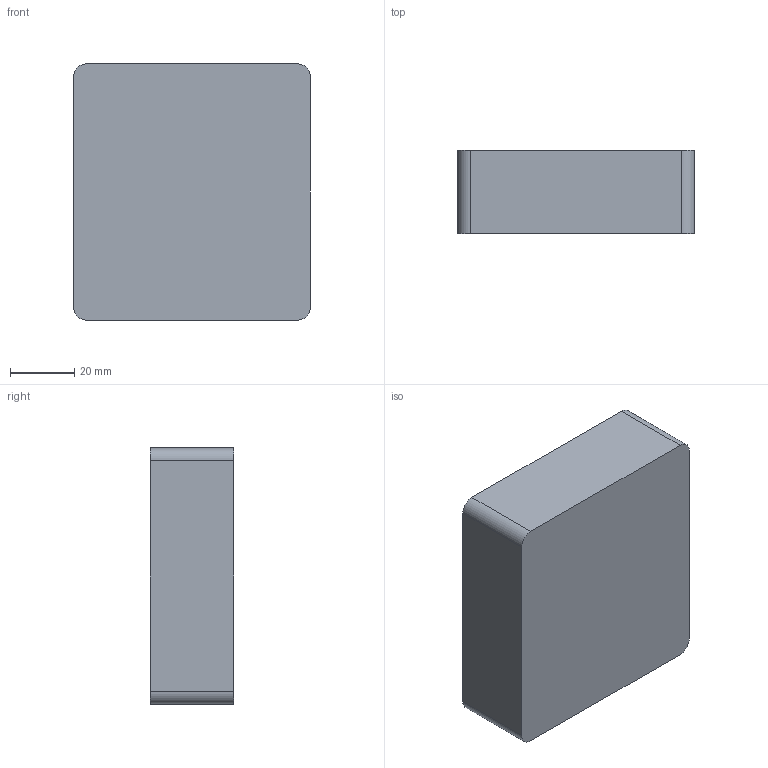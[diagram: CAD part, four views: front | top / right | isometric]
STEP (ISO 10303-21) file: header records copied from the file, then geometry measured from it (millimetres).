
FILE_DESCRIPTION (( 'STEP AP214' ), '1' );
FILE_NAME ('Press Out Fixture - FM3 GM3.STEP', '2023-07-05T12:57:56', ( '' ), ( '' ), 'SwSTEP 2.0', 'SolidWorks 2022', '' );
FILE_SCHEMA (( 'AUTOMOTIVE_DESIGN' ));
Length unit declared in the file: millimetre
Products named in the file (1): Press Out Fixture - FM3 GM3
Bounding box: 73.9 x 26 x 80 mm (x, y, z)
Volume: 92241.4 mm3; surface area: 24195 mm2
Topology: 1 solids, 1 shells, 35 faces, 96 edges, 64 vertices
Faces by surface type: plane 19, cylinder 16
Entity records: 1156 total; most frequent: DIRECTION 200, CARTESIAN_POINT 196, ORIENTED_EDGE 192, EDGE_CURVE 96, AXIS2_PLACEMENT_3D 68, LINE 64, VECTOR 64, VERTEX_POINT 64
